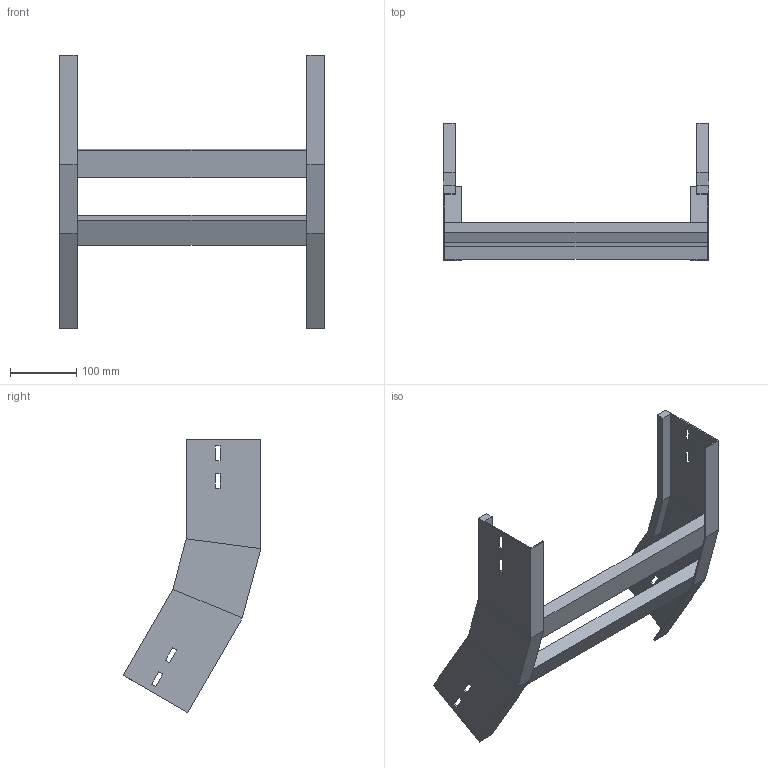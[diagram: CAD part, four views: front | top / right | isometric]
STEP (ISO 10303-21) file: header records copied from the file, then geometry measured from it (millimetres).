
FILE_DESCRIPTION (( 'STEP AP214' ), '1' );
FILE_NAME ('A2X32B3J400XX.step', '2025-03-20T09:59:16', ( '' ), ( '' ), 'SwSTEP 2.0', 'SolidWorks 2023', '' );
FILE_SCHEMA (( 'AUTOMOTIVE_DESIGN' ));
Length unit declared in the file: millimetre
Products named in the file (3): LONGH.SALITA_30°_H112.5_R300; TRAVERSINO_400; A2X32B3J400XX
Assembly tree (4 placements, depth 2):
  A2X32B3J400XX
    LONGH.SALITA_30°_H112.5_R300  x2
    TRAVERSINO_400  x2
Bounding box: 400 x 207.73 x 411.66 mm (x, y, z)
Volume: 1012668.9 mm3; surface area: 354258 mm2
Topology: 4 solids, 4 shells, 96 faces, 232 edges, 144 vertices
Faces by surface type: plane 96
Entity records: 1472 total; most frequent: CARTESIAN_POINT 243, ORIENTED_EDGE 232, DIRECTION 226, VECTOR 116, EDGE_CURVE 116, LINE 116, VERTEX_POINT 72, EDGE_LOOP 56
